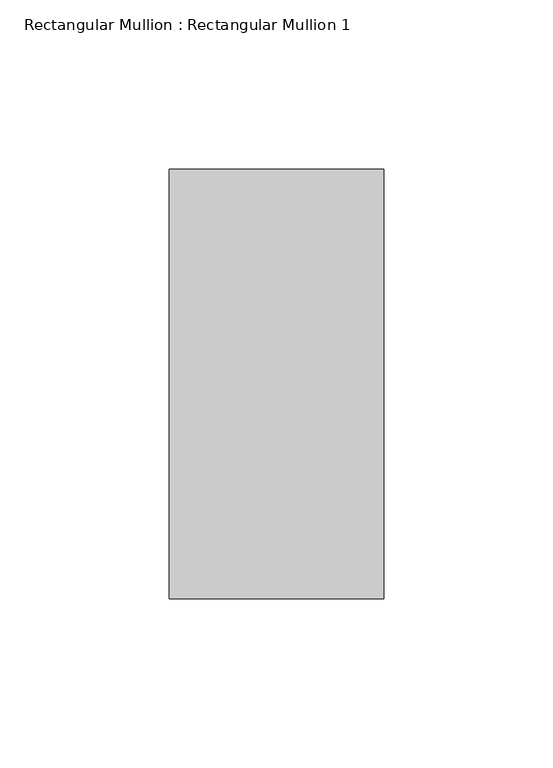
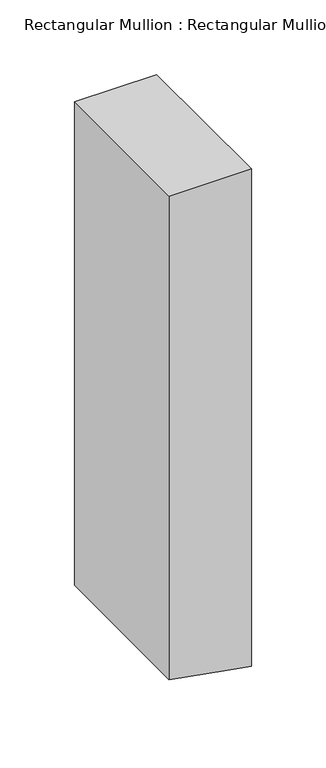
"""IFC4 building model written with IfcOpenShell, lengths in millimetres: member geometry, Rectangular Mullion : Rectangular Mullion 1."""

import ifcopenshell
import ifcopenshell.guid

model = None  # the IFC model being written
_history = None  # IfcOwnerHistory: only IFC2X3 demands one
_inside = {}  # id of a spatial element -> (the spatial element, [elements in it])
_under = {}  # id of a project, library or spatial element -> (it, [spatial elements below it])
_declared = {}  # id of a project -> (the project, [libraries it declares])
_typed = {}  # id of a type object -> (the type object, [elements of that type])
_made_of = {}  # id of a material, layer set ... -> (it, [elements and type objects made of it])


def new_model(schema):
    """Start an empty IFC model of exactly this schema.

    Asked for "IFC4X3", IfcOpenShell would pick the latest addendum, in which some entities
    have other attributes; the version numbers below select the first issue.
    IFC2X3 requires an IfcOwnerHistory on every rooted entity: one is made here for all.
    """
    global model, _history
    if schema == "IFC4X3":
        model = ifcopenshell.file(schema_version=(4, 3, 0, 0))
    else:
        model = ifcopenshell.file(schema=schema)
    _inside.clear()
    _under.clear()
    _declared.clear()
    _typed.clear()
    _made_of.clear()
    _history = None
    if model.schema == "IFC2X3":
        org = make("IfcOrganization", Name="unknown")
        user = make(
            "IfcPersonAndOrganization",
            ThePerson=make("IfcPerson", FamilyName="unknown"),
            TheOrganization=org,
        )
        app = make(
            "IfcApplication",
            ApplicationDeveloper=org,
            Version="unknown",
            ApplicationFullName="unknown",
            ApplicationIdentifier="unknown",
        )
        _history = make(
            "IfcOwnerHistory",
            OwningUser=user,
            OwningApplication=app,
            ChangeAction="ADDED",
            CreationDate=0,
        )
    return model


def make(cls, **values):
    """One entity of the class cls with the attributes given. An attribute that is None is left unset."""
    return model.create_entity(
        cls, **{name: value for name, value in values.items() if value is not None}
    )


def rooted(cls, **values):
    """An entity with a GlobalId (a new one), such as an element, a storey or a relation."""
    return make(cls, GlobalId=ifcopenshell.guid.new(), OwnerHistory=_history, **values)


def si_unit(unit_type, name, prefix=None):
    """IfcSIUnit, for example si_unit("LENGTHUNIT", "METRE", prefix="MILLI")."""
    return make("IfcSIUnit", UnitType=unit_type, Prefix=prefix, Name=name)


def assignment(units):
    """IfcUnitAssignment: the units of a project."""
    return None if units is None else make("IfcUnitAssignment", Units=units)


def point(xyz):
    """IfcCartesianPoint."""
    return None if xyz is None else make("IfcCartesianPoint", Coordinates=xyz)


def direction(xyz):
    """IfcDirection."""
    return None if xyz is None else make("IfcDirection", DirectionRatios=xyz)


def frame(location, z_axis=None, x_axis=None):
    """IfcAxis2Placement3D, a coordinate frame: its origin and axes. An axis left out is left unset."""
    return make(
        "IfcAxis2Placement3D",
        Location=point(location),
        Axis=direction(z_axis),
        RefDirection=direction(x_axis),
    )


def origin():
    """The frame at (0, 0, 0) with its axes left unset."""
    return frame((0.0, 0.0, 0.0))


def place(relative_to, where):
    """IfcLocalPlacement: puts the frame where relative to a parent placement (None: the world)."""
    return make(
        "IfcLocalPlacement", PlacementRelTo=relative_to, RelativePlacement=where
    )


def context(
    kind, dimensions, precision=None, world=None, true_north=None, identifier=None
):
    """IfcGeometricRepresentationContext, for example the 3D "Model" context."""
    return make(
        "IfcGeometricRepresentationContext",
        ContextIdentifier=identifier,
        ContextType=kind,
        CoordinateSpaceDimension=dimensions,
        Precision=precision,
        WorldCoordinateSystem=world,
        TrueNorth=true_north,
    )


def project(units=None, contexts=None):
    """IfcProject with its units and contexts."""
    return rooted(
        "IfcProject",
        Name="project",
        RepresentationContexts=contexts,
        UnitsInContext=assignment(units),
    )


def spatial(cls, under=None, at=None, **own):
    """A site, building, storey or space (cls), placed at a placement, below another one or the project."""
    s = rooted(cls, ObjectPlacement=at, **own)
    if under is not None:
        _under.setdefault(under.id(), (under, []))[1].append(s)
    return s


def polyline(points):
    """IfcPolyline through the points."""
    return make("IfcPolyline", Points=[point(p) for p in points])


def outline(outer, holes=None, kind="AREA"):
    """IfcArbitraryClosedProfileDef: a profile drawn as a closed curve; with holes, ...WithVoids."""
    if holes is None:
        return make("IfcArbitraryClosedProfileDef", ProfileType=kind, OuterCurve=outer)
    return make(
        "IfcArbitraryProfileDefWithVoids",
        ProfileType=kind,
        OuterCurve=outer,
        InnerCurves=holes,
    )


def extrude(swept, where, along, depth):
    """IfcExtrudedAreaSolid: the profile swept, set in the frame where, extruded along a direction by depth."""
    return make(
        "IfcExtrudedAreaSolid",
        SweptArea=swept,
        Position=where,
        ExtrudedDirection=direction(along),
        Depth=depth,
    )


def shape(context_of_items, identifier, shape_type, items):
    """IfcShapeRepresentation: the items that make up one representation, for example the "Body"."""
    return make(
        "IfcShapeRepresentation",
        ContextOfItems=context_of_items,
        RepresentationIdentifier=identifier,
        RepresentationType=shape_type,
        Items=items,
    )


def source(mapping_origin, context_of_items, identifier, shape_type, items):
    """IfcRepresentationMap: a shape defined once, which mapped items show again and again."""
    return make(
        "IfcRepresentationMap",
        MappingOrigin=mapping_origin,
        MappedRepresentation=shape(context_of_items, identifier, shape_type, items),
    )


def transform(
    local_origin,
    x_axis=None,
    y_axis=None,
    z_axis=None,
    scale=None,
    scale2=None,
    scale3=None,
    uniform=True,
):
    """IfcCartesianTransformationOperator3D, or its non-uniform kind. x_axis, y_axis, z_axis: its Axis1, 2, 3."""
    if uniform:
        return make(
            "IfcCartesianTransformationOperator3D",
            Axis1=direction(x_axis),
            Axis2=direction(y_axis),
            LocalOrigin=point(local_origin),
            Scale=scale,
            Axis3=direction(z_axis),
        )
    return make(
        "IfcCartesianTransformationOperator3DnonUniform",
        Axis1=direction(x_axis),
        Axis2=direction(y_axis),
        LocalOrigin=point(local_origin),
        Scale=scale,
        Axis3=direction(z_axis),
        Scale2=scale2,
        Scale3=scale3,
    )


def mapped(mapping_source, mapping_target):
    """IfcMappedItem: shows the shape of a source again, moved by a transform."""
    return make(
        "IfcMappedItem", MappingSource=mapping_source, MappingTarget=mapping_target
    )


def made_of(thing, what):
    """Note that an element or type object is made of a material, layer set ...; save() writes the relation."""
    if what is not None:
        _made_of.setdefault(what.id(), (what, []))[1].append(thing)
    return thing


def element(
    cls,
    number,
    at=None,
    inside=None,
    cuts=None,
    type_object=None,
    material=None,
    context=None,
    identifier="Body",
    shape_type=None,
    held_by="IfcProductDefinitionShape",
    body=None,
    shapes=None,
    **own,
):
    """One element of the class cls, such as IfcWall. Its Tag is "e" and its number.

    at: its placement. inside: the storey or other place that contains it. cuts: it is an
    opening in that element (IfcRelVoidsElement). A single representation is given by context,
    identifier, shape_type and body (its items); several are given by shapes. held_by: the class
    of the entity that holds the representations. save() writes the other relations.
    """
    e = rooted(cls, Tag="e%d" % number, ObjectPlacement=at, **own)
    if body is not None:
        shapes = [shape(context, identifier, shape_type, body)]
    if shapes is not None:
        e.Representation = make(held_by, Representations=shapes)
    if inside is not None:
        _inside.setdefault(inside.id(), (inside, []))[1].append(e)
    if cuts is not None:
        rooted(
            "IfcRelVoidsElement", RelatingBuildingElement=cuts, RelatedOpeningElement=e
        )
    if type_object is not None:
        _typed.setdefault(type_object.id(), (type_object, []))[1].append(e)
    return made_of(e, material)


def aggregate(whole, parts):
    """IfcRelAggregates: a whole, such as a stair, and the parts it consists of."""
    return rooted("IfcRelAggregates", RelatingObject=whole, RelatedObjects=parts)


def save(model, path):
    """Write the relations noted so far, then the file.

    IfcRelAggregates (storeys below a building ...), IfcRelContainedInSpatialStructure (elements
    in a storey), IfcRelDefinesByType, IfcRelAssociatesMaterial and IfcRelDeclares: one each for
    every whole, place, type object, material and project.
    """
    for whole, parts in _under.values():
        aggregate(whole, parts)
    for where, things in _inside.values():
        rooted(
            "IfcRelContainedInSpatialStructure",
            RelatedElements=things,
            RelatingStructure=where,
        )
    for kind, things in _typed.values():
        rooted("IfcRelDefinesByType", RelatedObjects=things, RelatingType=kind)
    for what, things in _made_of.values():
        rooted("IfcRelAssociatesMaterial", RelatedObjects=things, RelatingMaterial=what)
    for by, libraries in _declared.values():
        rooted("IfcRelDeclares", RelatingContext=by, RelatedDefinitions=libraries)
    model.write(path)


def rectangular_mullion_rectangular_mullion_1_4bdfacaf(model_context):
    return source(origin(), model_context, "Body", "SweptSolid", [
        extrude(outline(polyline([(0.0, 31.75), (0.0, -31.75), (-395.4346378, -31.75), (-402.977317, 11.0266593), (-406.6314011, 31.75), (0.0, 31.75)])), frame((0.0, -63.5, 0.0), z_axis=(0.0, 1.0, 0.0), x_axis=(0.0, 0.0, 1.0)), (0.0, 0.0, 1.0), 127.0),
    ])


if __name__ == "__main__":
    model = new_model("IFC4")
    model_context = context("Model", 3, world=origin())
    ifc_project = project(units=[si_unit("LENGTHUNIT", "METRE", prefix="MILLI")], contexts=[model_context])
    site = spatial("IfcSite", under=ifc_project)
    building = spatial("IfcBuilding", under=site)
    placement = place(None, origin())
    rectangular_mullion_rectangular_mullion_1_shape = rectangular_mullion_rectangular_mullion_1_4bdfacaf(model_context)
    element("IfcMember", 1, ObjectType="Rectangular Mullion : Rectangular Mullion 1", at=placement, inside=building, context=model_context, shape_type="MappedRepresentation", body=[
        mapped(rectangular_mullion_rectangular_mullion_1_shape, transform((0.0, 0.0, 0.0), x_axis=(1.0, 0.0, 0.0), y_axis=(0.0, 1.0, 0.0), z_axis=(0.0, 0.0, 1.0))),
    ])
    save(model, "model.ifc")
